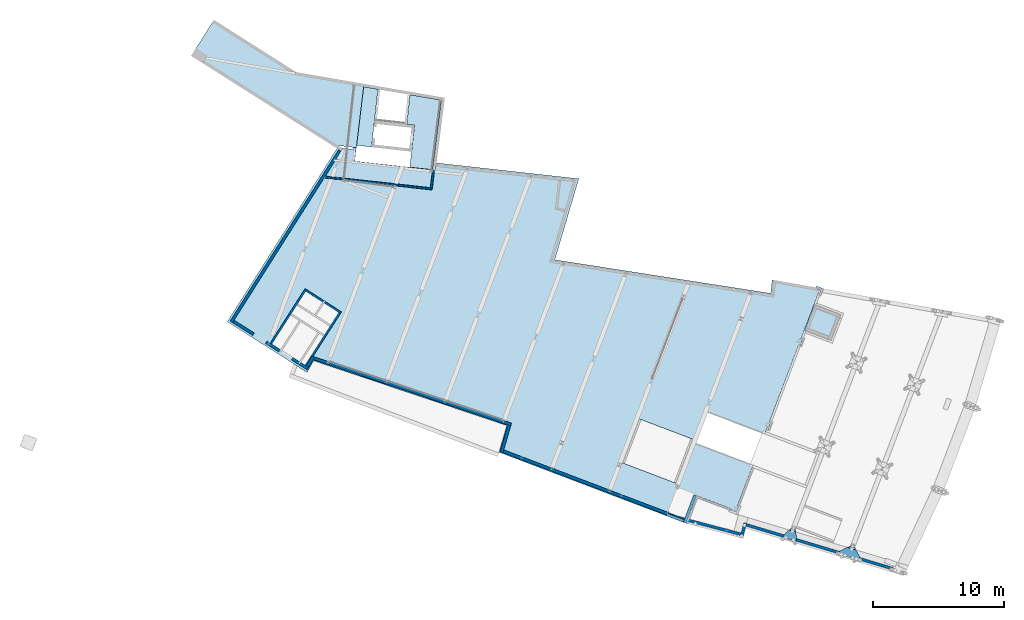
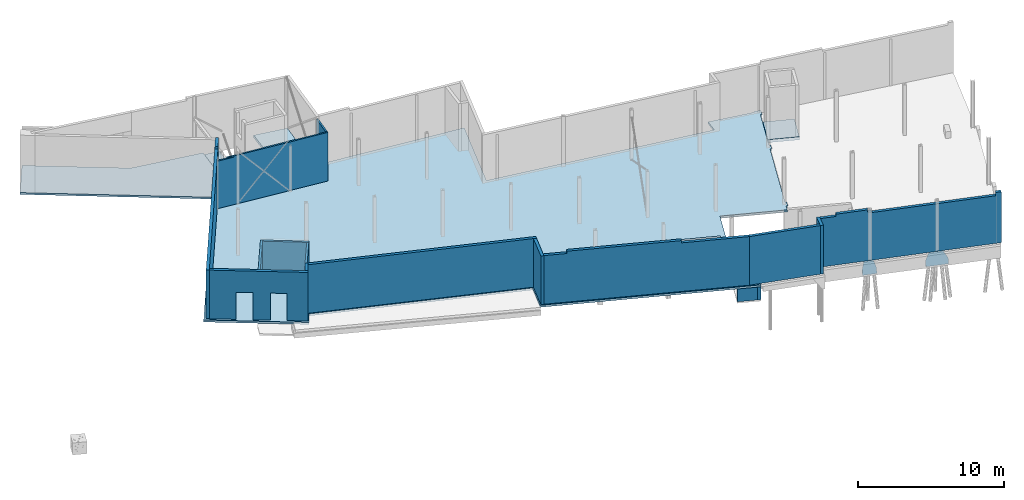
# One storey, part 42 of 46: 16 walls, 7 slabs, 3 openings.
"""IFC2X3 building model written with IfcOpenShell, lengths in millimetres."""

from ifc_helpers import new_model, entity, si_unit, converted_unit, derived_unit, direction, frame, frame_2d, origin, origin_2d_with_axis, place, context, subcontext, project, spatial, polyline, rectangle, outline, extrude, clip, bounded_halfspace, faceted_brep, material, layer, layer_set, layer_usage, type_object, element, save


model = new_model("IFC2X3")

# Units and contexts
model_context = context("Model", 3, precision=0.01, world=origin(), true_north=direction((6.123233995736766e-17, 1.0)))
body_context = subcontext(model_context, "Body", "Model", "MODEL_VIEW")
ifc_project = project(units=[si_unit("LENGTHUNIT", "METRE", prefix="MILLI"), converted_unit("PLANEANGLEUNIT", "DEGREE", entity("IfcPlaneAngleMeasure", 0.017453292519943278), si_unit("PLANEANGLEUNIT", "RADIAN"), dimensions=[0, 0, 0, 0, 0, 0, 0]), si_unit("AREAUNIT", "SQUARE_METRE"), derived_unit("THERMALTRANSMITTANCEUNIT", [(si_unit("MASSUNIT", "GRAM", prefix="KILO"), 1), (si_unit("THERMODYNAMICTEMPERATUREUNIT", "KELVIN"), -1), (si_unit("TIMEUNIT", "SECOND"), -3)])], contexts=[model_context])

# Site, building, storey
site_placement = place(None, frame((-72937.88054949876, 11621.45624098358, 0.0), z_axis=(0.0, 0.0, 1.0), x_axis=(0.9346418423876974, -0.35559053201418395, 0.0)))
site = spatial("IfcSite", under=ifc_project, at=site_placement, Name="Default", CompositionType="ELEMENT")
building_placement = place(site_placement, origin())
building = spatial("IfcBuilding", under=site, at=building_placement, CompositionType="ELEMENT")
storey_placement = place(building_placement, origin())
storey = spatial("IfcBuildingStorey", under=building, at=storey_placement, Name="00 begane grond", CompositionType="ELEMENT", Elevation=0.0)

# Slab, opening
ifc_material_1 = material(Name="beton_gewapend_ihw")
ifc_layer_1 = layer(ifc_material_1, 170.0)
ifc_layer_set_1 = layer_set([ifc_layer_1], Name="Floor:23.21_FL_Beton170mm")
ifc_layer_usage_1 = layer_usage(ifc_layer_set_1, "AXIS3", "POSITIVE", 0.0)
slab_type_1 = type_object("IfcSlabType", Name="23.21_vloer", PredefinedType="FLOOR", material=ifc_layer_set_1)
slab_1_placement = place(storey_placement, frame((11434.254827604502, 12622.982078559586, -230.0)))
slab_1 = element("IfcSlab", 1, at=slab_1_placement, inside=storey, type_object=slab_type_1, material=ifc_layer_usage_1, Name="beton 250mm", ObjectType="{$type(\"IfcObjectType[Type]\")}", PredefinedType="FLOOR", context=body_context, shape_type="SweptSolid", body=[
    extrude(outline(polyline([(22613.537964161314, -8930.045339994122), (19463.148371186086, 6529.991320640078), (18289.063698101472, 6822.527126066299), (18327.74675253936, 6977.780536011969), (18114.273313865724, 7030.969735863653), (17864.274662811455, 6027.606800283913), (12046.96180816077, 7536.1043550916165), (12179.434014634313, 8072.868648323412), (1356.278949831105, 10867.996685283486), (857.579482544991, 4421.563305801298), (-15491.795965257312, 7893.61412673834), (-15231.120350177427, 8902.008376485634), (-18567.207208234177, 9539.277695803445), (-18567.207208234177, 9662.89243700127), (-19017.20720823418, 9662.89243700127), (-19017.20720823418, 9212.892437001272), (-18902.207208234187, 9212.892437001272), (-18902.20720823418, 5491.623235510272), (-19017.20720823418, 5491.623235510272), (-19017.20720823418, 5041.623235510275), (-18902.20720823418, 5041.623235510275), (-18902.207208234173, -1388.3767644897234), (-19017.207208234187, -1388.3767644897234), (-19017.207208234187, -1838.376764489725), (-18902.20720823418, -1838.376764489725), (-18902.20720823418, -2333.376764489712), (-14237.207208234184, -2333.3767644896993), (-14237.207208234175, -4873.376764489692), (-18902.20720823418, -4873.376764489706), (-18902.207208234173, -8268.376764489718), (-19017.20720823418, -8268.376764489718), (-19017.20720823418, -8718.37676448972), (-18567.207208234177, -8718.376764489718), (-18567.207208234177, -8603.37676448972), (-15692.207208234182, -8603.376764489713), (-15692.207208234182, -10870.394685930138), (-377.7228109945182, -10870.394685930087), (-210.7202484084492, -8750.191004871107), (15371.114483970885, -9366.987101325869), (15532.42841604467, -10373.007883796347), (22613.537964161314, -8930.045339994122)])), frame((22613.537964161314, 10870.394685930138, 170.0), z_axis=(0.0, 0.0, -1.0), x_axis=(-1.0, 0.0, 0.0)), (0.0, 0.0, 1.0), 170.0),
])
opening_1_placement = place(slab_1_placement, origin())
element("IfcOpeningElement", 2, at=opening_1_placement, cuts=slab_1, Name="beton 250mm", ObjectType="Opening", context=body_context, shape_type="SweptSolid", body=[
    extrude(rectangle(XDim=3600.0, YDim=4380.000000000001, at=frame_2d((1.1368683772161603e-12, -4.320099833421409e-12), x_axis=(1.0, 0.0))), frame((34310.745172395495, 4402.017921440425, 170.0), z_axis=(0.0, 0.0, -1.0), x_axis=(0.0, -1.0, 0.0)), (0.0, 0.0, 1.0), 170.0),
])

# Slabs
slab_type_2 = type_object("IfcSlabType", Name="13.22_SFO_Beton1170mm", PredefinedType="BASESLAB")
slab_2_placement = place(storey_placement, origin())
element("IfcSlab", 3, at=slab_2_placement, inside=storey, type_object=slab_type_2, material=ifc_material_1, Name="Foundation Slab:13.22_SFO_Beton1170mm", ObjectType="Foundation Slab:13.22_SFO_Beton1170mm", PredefinedType="BASESLAB", context=body_context, shape_type="Brep", body=[
    faceted_brep([(61500.0, 14827.73021632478, -1230.0), (62125.0, 15485.151536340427, -1230.0), (62475.0, 15485.151536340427, -1230.0), (63100.0, 14942.81415988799, -1230.0), (63100.0, 14708.248249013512, -1230.0), (61500.0, 14592.111968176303, -1230.0), (61500.0, 14827.73021632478, -879.74522292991), (61946.33105192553, 15297.21429523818, -230.0), (62125.0, 15485.151536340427, -230.0), (62475.0, 15485.151536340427, -230.0), (62634.05534388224, 15347.132883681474, -230.0), (63100.0, 14942.81415988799, -881.3095591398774)], [[[0, 1, 2, 3, 4, 5]], [[0, 5, 6]], [[1, 0, 6, 7, 8]], [[2, 1, 8, 9]], [[3, 2, 9, 10, 11]], [[4, 3, 11]], [[5, 4, 11, 10, 7, 6]], [[8, 7, 10, 9]]]),
])
slab_3_placement = place(storey_placement, origin())
element("IfcSlab", 4, at=slab_3_placement, inside=storey, type_object=slab_type_2, material=ifc_material_1, Name="Foundation Slab:13.22_SFO_Beton1170mm", ObjectType="Foundation Slab:13.22_SFO_Beton1170mm", PredefinedType="BASESLAB", context=body_context, shape_type="Brep", body=[
    faceted_brep([(57070.0, 14506.177888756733, -1230.0), (57395.0, 15141.823656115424, -1230.0), (57745.0, 15141.823656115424, -1230.0), (58070.0, 14578.763064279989, -1230.0), (58070.0, 14343.144816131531, -1230.0), (57070.0, 14270.559640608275, -1230.0), (57070.0, 14506.177888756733, -879.7452229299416), (57302.092147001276, 14960.111399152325, -230.0), (57395.0, 15141.823656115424, -230.0), (57745.0, 15141.823656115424, -230.0), (57827.85714226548, 14998.274143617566, -230.0), (58070.0, 14578.763064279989, -879.7452229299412)], [[[0, 1, 2, 3, 4, 5]], [[0, 5, 6]], [[1, 0, 6, 7, 8]], [[2, 1, 8, 9]], [[3, 2, 9, 10, 11]], [[4, 3, 11]], [[5, 4, 11, 10, 7, 6]], [[8, 7, 10, 9]]]),
])
ifc_material_2 = material(Name="beton_gewapend_ihw_c30/37")
ifc_layer_2 = layer(ifc_material_2, 250.00000000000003)
ifc_layer_set_2 = layer_set([ifc_layer_2], Name="Foundation Slab:13.22_SFO_Beton250mm-C30/37")
ifc_layer_usage_2 = layer_usage(ifc_layer_set_2, "AXIS3", "POSITIVE", 0.0)
slab_type_3 = type_object("IfcSlabType", Name="13.22_SFO_Beton250mm-C30/37", PredefinedType="BASESLAB", material=ifc_layer_set_2)
slab_4_placement = place(storey_placement, origin())
element("IfcSlab", 5, at=slab_4_placement, inside=storey, type_object=slab_type_3, material=ifc_layer_usage_2, Name="Foundation Slab:13.22_SFO_Beton250mm-C30/37", ObjectType="Foundation Slab:13.22_SFO_Beton250mm-C30/37", PredefinedType="BASESLAB", context=body_context, shape_type="SweptSolid", body=[
    extrude(rectangle(XDim=2149.9999999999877, YDim=2189.9999999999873, at=origin_2d_with_axis()), frame((54065.0, 30715.0, -60.0), z_axis=(0.0, 0.0, -1.0), x_axis=(0.0, 1.0, 0.0)), (0.0, 0.0, 1.0), 250.00000000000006),
])
ifc_layer_3 = layer(ifc_material_1, 150.0)
ifc_layer_set_3 = layer_set([ifc_layer_3], Name="Floor:23.21_FL_Beton150mm")
ifc_layer_usage_3 = layer_usage(ifc_layer_set_3, "AXIS3", "POSITIVE", 0.0)
slab_type_4 = type_object("IfcSlabType", Name="23.21_vloer", PredefinedType="FLOOR", material=ifc_layer_set_3)
slab_5_placement = place(storey_placement, origin())
element("IfcSlab", 6, at=slab_5_placement, inside=storey, type_object=slab_type_4, material=ifc_layer_usage_3, Name="beton 250mm", ObjectType="{$type(\"IfcObjectType[Type]\")}", PredefinedType="FLOOR", context=body_context, shape_type="SweptSolid", body=[
    extrude(outline(polyline([(-1524.7674812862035, -4779.3303275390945), (3398.630257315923, -4779.3303275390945), (3398.630257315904, -3425.696420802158), (3621.181408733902, -3319.5029878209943), (-2085.312028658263, 8609.608198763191), (-5012.542797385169, 7209.317522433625), (-1795.8196160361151, 484.93434250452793), (-1524.7674812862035, -4779.3303275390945)])), frame((10474.289916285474, 32666.658008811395, -800.0), z_axis=(0.0, 0.0, -1.0), x_axis=(0.24176909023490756, -0.9703338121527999, 0.0)), (0.0, 0.0, 1.0), 150.0),
])
ifc_material_3 = material(Name="beton_gewapend_ihw_c20/25")
ifc_layer_4 = layer(ifc_material_3, 50.0)
ifc_material_4 = material(Name="hout_vuren_generiek_c24")
ifc_layer_5 = layer(ifc_material_4, 171.0)
ifc_layer_set_4 = layer_set([ifc_layer_4, ifc_layer_5], Name="Floor:23.21_FL_Lewisvloer50-171")
ifc_layer_usage_4 = layer_usage(ifc_layer_set_4, "AXIS3", "POSITIVE", 0.0)
slab_type_5 = type_object("IfcSlabType", Name="23.21_FL_Lewisvloer50-171", PredefinedType="FLOOR", material=ifc_layer_set_4)
slab_6_placement = place(storey_placement, origin())
element("IfcSlab", 7, at=slab_6_placement, inside=storey, type_object=slab_type_5, material=ifc_layer_usage_4, Name="beton 250mm", ObjectType="{$type(\"IfcObjectType[Type]\")}", PredefinedType="FLOOR", context=body_context, shape_type="SweptSolid", body=[
    extrude(outline(polyline([(-2499.7980922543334, -1407.6063400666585), (2868.8885329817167, -1407.6063400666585), (2898.4904922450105, 356.0008516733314), (-334.22708451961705, 405.38248636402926), (-325.0255385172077, 1007.7521665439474), (-2608.328309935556, 1046.0771755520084), (-2499.7980922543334, -1407.6063400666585)])), frame((19956.426084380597, 33487.14231192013, -60.0), z_axis=(0.0, 0.0, -1.0), x_axis=(0.2347367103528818, -0.9720589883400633, 0.0)), (0.0, 0.0, 1.0), 221.0),
])
ifc_layer_usage_5 = layer_usage(ifc_layer_set_4, "AXIS3", "POSITIVE", 0.0)
slab_7_placement = place(storey_placement, origin())
element("IfcSlab", 8, at=slab_7_placement, inside=storey, type_object=slab_type_5, material=ifc_layer_usage_5, Name="beton 250mm", ObjectType="{$type(\"IfcObjectType[Type]\")}", PredefinedType="FLOOR", context=body_context, shape_type="SweptSolid", body=[
    extrude(outline(polyline([(-2207.5722452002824, -566.1671969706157), (2241.4854353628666, -566.1671969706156), (2241.4854353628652, 587.7188486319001), (-2275.3986255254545, 544.6155453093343), (-2207.5722452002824, -566.1671969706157)])), frame((15894.796478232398, 33022.09118712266, -800.0), z_axis=(0.0, 0.0, -1.0), x_axis=(0.2510172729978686, -0.9679826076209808, 0.0)), (0.0, 0.0, 1.0), 220.99999999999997),
])

# Walls
ifc_layer_6 = layer(ifc_material_1, 220.0)
ifc_layer_set_5 = layer_set([ifc_layer_6], Name="Basic Wall:22.21_WA_Beton 220mm")
ifc_layer_usage_6 = layer_usage(ifc_layer_set_5, "AXIS2", "NEGATIVE", 110.0)
wall_type_1 = type_object("IfcWallType", Name="22.21_muur", PredefinedType="STANDARD", material=ifc_layer_set_5)
wall_1_placement = place(storey_placement, frame((49630.0, 14890.0, -1300.0), z_axis=(0.0, 0.0, 1.0), x_axis=(0.0, -1.0, 0.0)))
element("IfcWallStandardCase", 9, at=wall_1_placement, inside=storey, type_object=wall_type_1, material=ifc_layer_usage_6, Name="Basic Wall:22.21_WA_Beton 220mm", ObjectType="Basic Wall:22.21_WA_Beton 220mm", context=body_context, shape_type="Clipping", body=[
    clip(extrude(rectangle(XDim=2267.0179214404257, YDim=220.00000000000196, at=frame_2d((1133.5089607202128, 0.0), x_axis=(-1.0, 0.0))), origin(), (0.0, 0.0, 1.0), 1070.0000000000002), bounded_halfspace(frame((0.0, -110.0, 1070.0), z_axis=(0.0, 0.0, -1.0), x_axis=(-0.9798626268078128, 0.19967281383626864, 0.0)), True, frame((0.0, -110.0, 1070.0), z_axis=(0.0, 0.0, -1.0), x_axis=(-0.9798626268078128, 0.19967281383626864, 0.0)), polyline([(0.0, 0.0), (43.92801904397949, 215.56977789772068), (-2177.4381164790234, 668.2316252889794), (-2221.366135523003, 452.6618473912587), (-2005.796357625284, 408.73382834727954), (0.0, 0.0)]))),
])
ifc_layer_usage_7 = layer_usage(ifc_layer_set_5, "AXIS2", "NEGATIVE", 110.0)
wall_2_placement = place(storey_placement, frame((49520.0, 12732.982078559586, -1300.0), z_axis=(0.0, 0.0, 1.0), x_axis=(-1.0, 0.0, 0.0)))
element("IfcWallStandardCase", 10, at=wall_2_placement, inside=storey, type_object=wall_type_1, material=ifc_layer_usage_7, Name="Basic Wall:22.21_WA_Beton 220mm", ObjectType="Basic Wall:22.21_WA_Beton 220mm", context=body_context, shape_type="Clipping", body=[
    clip(extrude(rectangle(XDim=1409.9999999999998, YDim=219.9999999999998, at=frame_2d((704.9999999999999, 1.1723955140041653e-12), x_axis=(-1.0, 0.0))), origin(), (0.0, 0.0, 1.0), 1070.0000000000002), bounded_halfspace(frame((0.0, -110.0, 1070.0), z_axis=(0.0, 0.0, -1.0), x_axis=(-0.1996728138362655, -0.9798626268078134, 0.0)), True, frame((0.0, -110.0, 1070.0), z_axis=(0.0, 0.0, -1.0), x_axis=(-0.1996728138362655, -0.9798626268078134, 0.0)), polyline([(0.0, 0.0), (-215.56977789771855, 43.928019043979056), (-497.1084454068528, -1337.6782847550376), (-281.53866750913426, -1381.6063037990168), (0.0, 0.0)]))),
])
ifc_material_5 = material(Name="steenachtig_baksteen_steen")
ifc_layer_7 = layer(ifc_material_5, 220.0)
ifc_layer_set_6 = layer_set([ifc_layer_7], Name="Basic Wall:22.21_WA_Metselwerk 220mm")
ifc_layer_usage_8 = layer_usage(ifc_layer_set_6, "AXIS2", "NEGATIVE", 110.0)
wall_type_2 = type_object("IfcWallType", Name="22.21_muur", PredefinedType="STANDARD", material=ifc_layer_set_6)
wall_3_placement = place(storey_placement, frame((11730.765387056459, 14666.197785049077, -60.0), z_axis=(0.0, 0.0, 1.0), x_axis=(0.1996728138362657, 0.9798626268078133, 0.0)))
element("IfcWallStandardCase", 11, at=wall_3_placement, inside=storey, type_object=wall_type_2, material=ifc_layer_usage_8, Name="Basic Wall:22.21_WA_Metselwerk 220mm", ObjectType="Basic Wall:22.21_WA_Metselwerk 220mm", context=body_context, shape_type="Clipping", body=[
    clip(extrude(outline(polyline([(15548.079857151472, -110.0), (15548.295308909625, 110.0), (0.0, 110.0), (0.0, -110.0), (220.0, -110.0), (15548.079857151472, -110.0)])), origin(), (0.0, 0.0, 1.0), 4250.0), bounded_halfspace(frame((0.0, -110.0, 4060.0), z_axis=(0.0, 0.0, -1.0), x_axis=(0.9798626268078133, 0.1996728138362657, 0.0)), True, frame((0.0, -110.0, 4060.0)), polyline([(0.0, 0.0), (220.0, 0.0), (14483.424345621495, 0.0), (14438.593552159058, 220.0), (0.0, 220.0), (0.0, 0.0)]))),
])

# Wall, openings
ifc_layer_usage_9 = layer_usage(ifc_layer_set_6, "AXIS2", "NEGATIVE", 110.0)
wall_4_placement = place(storey_placement, frame((18484.224642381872, 13402.26325100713, -60.0), z_axis=(0.0, 0.0, 1.0), x_axis=(-0.9798626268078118, 0.19967281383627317, 0.0)))
wall_4 = element("IfcWallStandardCase", 12, at=wall_4_placement, inside=storey, type_object=wall_type_2, material=ifc_layer_usage_9, Name="Basic Wall:22.21_WA_Metselwerk 220mm", ObjectType="Basic Wall:22.21_WA_Metselwerk 220mm", context=body_context, shape_type="Clipping", body=[
    clip(extrude(outline(polyline([(9.251816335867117, -110.0), (229.4462670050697, -110.0), (6759.835690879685, -110.0), (6759.835690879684, 110.0), (0.0, 110.0), (9.251816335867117, -110.0)])), origin(), (0.0, 0.0, 1.0), 4059.9999999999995), bounded_halfspace(frame((9.251816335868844, -110.0, 4060.0), z_axis=(0.0, 0.0, -1.0), x_axis=(0.19967281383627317, -0.9798626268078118, 0.0)), True, frame((9.251816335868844, -110.0, 4060.0)), polyline([(0.0, 0.0), (220.19445066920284, 0.0), (6750.58387454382, 0.0), (6750.583874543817, 220.0), (-9.25181633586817, 220.0), (0.0, 0.0)]))),
])
opening_2_placement = place(wall_4_placement, frame((15435.93329748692, 16823.17402022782, 0.0)))
element("IfcOpeningElement", 13, at=opening_2_placement, cuts=wall_4, Name="31.10_Constructiesparing", ObjectType="Opening", context=body_context, shape_type="SweptSolid", body=[
    extrude(rectangle(XDim=2259.9999999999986, YDim=1150.0000000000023, at=frame_2d((0.0, -1.0800249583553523e-12), x_axis=(1.0, 0.0))), frame((-11079.765775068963, -16933.174020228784, 1130.0), z_axis=(0.0, 1.0, 0.0), x_axis=(0.0, 0.0, -1.0)), (0.0, 0.0, 1.0), 220.00000000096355),
])
opening_3_placement = place(wall_4_placement, frame((15435.93329748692, 16823.17402022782, 0.0)))
element("IfcOpeningElement", 14, at=opening_3_placement, cuts=wall_4, Name="31.10_Constructiesparing", ObjectType="Opening", context=body_context, shape_type="SweptSolid", body=[
    extrude(rectangle(XDim=2259.9999999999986, YDim=1150.0000000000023, at=frame_2d((0.0, 1.0800249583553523e-12), x_axis=(1.0, 0.0))), frame((-13431.817221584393, -16933.17402022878, 1130.0), z_axis=(0.0, 1.0, 0.0), x_axis=(0.0, 0.0, -1.0)), (0.0, 0.0, 1.0), 220.00000000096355),
])

# Walls
ifc_layer_usage_10 = layer_usage(ifc_layer_set_6, "AXIS2", "NEGATIVE", 110.0)
wall_5_placement = place(storey_placement, frame((18388.51058481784, 13529.311337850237, -60.0), z_axis=(0.0, 0.0, 1.0), x_axis=(0.15832601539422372, 0.9873868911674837, 0.0)))
element("IfcWallStandardCase", 15, at=wall_5_placement, inside=storey, type_object=wall_type_2, material=ifc_layer_usage_10, Name="Basic Wall:22.21_WA_Metselwerk 220mm", ObjectType="Basic Wall:22.21_WA_Metselwerk 220mm", context=body_context, shape_type="Clipping", body=[
    clip(extrude(outline(polyline([(925.0875277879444, -110.0), (880.8213387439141, 110.0), (9.251816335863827, 110.0), (0.0, -110.0), (700.6783134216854, -110.0), (925.0875277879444, -110.0)])), origin(), (0.0, 0.0, 1.0), 4059.9999999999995), bounded_halfspace(frame((0.0, -110.0, 4060.0), z_axis=(0.0, 0.0, -1.0), x_axis=(0.9873868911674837, 0.15832601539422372, 0.0)), True, frame((0.0, -110.0, 4060.0)), polyline([(0.0, 0.0), (700.6783134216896, 0.0), (925.087527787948, 0.0), (880.8213387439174, 220.0), (9.251816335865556, 220.0), (0.0, 0.0)]))),
])
ifc_layer_usage_11 = layer_usage(ifc_layer_set_6, "AXIS2", "NEGATIVE", 110.0)
wall_6_placement = place(storey_placement, frame((18603.70788213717, 14313.649978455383, -60.0), z_axis=(0.0, 0.0, 1.0), x_axis=(0.9992174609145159, 0.03955332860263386, 0.0)))
element("IfcWallStandardCase", 16, at=wall_6_placement, inside=storey, type_object=wall_type_2, material=ifc_layer_usage_11, Name="Basic Wall:22.21_WA_Metselwerk 220mm", ObjectType="Basic Wall:22.21_WA_Metselwerk 220mm", context=body_context, shape_type="Clipping", body=[
    clip(extrude(outline(polyline([(15956.648119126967, -110.0), (15948.054670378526, 110.0), (44.26618904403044, 110.0), (0.0, -110.0), (15736.48034818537, -110.0), (15956.648119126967, -110.0)])), origin(), (0.0, 0.0, 1.0), 4059.9999999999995), bounded_halfspace(frame((0.0, -110.0, 4060.0), z_axis=(0.0, 0.0, -1.0), x_axis=(0.03955332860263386, 0.9992174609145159, 0.0)), True, frame((0.0, -110.0, 4060.0)), polyline([(0.0, 0.0), (15736.480348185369, 0.0), (15956.648119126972, 0.0), (15948.054670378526, 220.0), (44.2661890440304, 220.0), (0.0, 0.0)]))),
])
ifc_layer_usage_12 = layer_usage(ifc_layer_set_6, "AXIS2", "NEGATIVE", 110.0)
wall_7_placement = place(storey_placement, frame((34610.483082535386, 12694.344437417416, -60.0), z_axis=(0.0, 0.0, 1.0), x_axis=(-0.07852401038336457, 0.9969122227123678, 0.0)))
element("IfcWallStandardCase", 17, at=wall_7_placement, inside=storey, type_object=wall_type_2, material=ifc_layer_usage_12, Name="Basic Wall:22.21_WA_Metselwerk 220mm", ObjectType="Basic Wall:22.21_WA_Metselwerk 220mm", context=body_context, shape_type="Clipping", body=[
    clip(extrude(outline(polyline([(2138.495724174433, -110.0), (2147.0891729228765, 110.0), (17.328789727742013, 110.0), (0.0, -110.0), (220.6814150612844, -110.0), (2138.495724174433, -110.0)])), origin(), (0.0, 0.0, 1.0), 4059.9999999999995), bounded_halfspace(frame((0.0, -110.0, 4060.0), z_axis=(0.0, 0.0, -1.0), x_axis=(0.9969122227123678, -0.07852401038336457, 0.0)), True, frame((0.0, -110.0, 4060.0)), polyline([(0.0, 0.0), (220.6814150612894, 0.0), (2138.4957241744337, 0.0), (2147.0891729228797, 220.0), (17.328789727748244, 220.0), (0.0, 0.0)]))),
])
ifc_layer_usage_13 = layer_usage(ifc_layer_set_6, "AXIS2", "NEGATIVE", 110.0)
wall_8_placement = place(storey_placement, frame((34702.81463730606, 12812.982078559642, -60.0)))
element("IfcWallStandardCase", 18, at=wall_8_placement, inside=storey, type_object=wall_type_2, material=ifc_layer_usage_13, Name="Basic Wall:22.21_WA_Metselwerk 220mm", ObjectType="Basic Wall:22.21_WA_Metselwerk 220mm", context=body_context, shape_type="Clipping", body=[
    clip(clip(extrude(outline(polyline([(14265.089800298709, -110.0), (14253.598966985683, 110.0), (0.0, 110.0), (17.328789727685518, -110.0), (14265.089800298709, -110.0)])), origin(), (0.0, 0.0, 1.0), 4250.0), bounded_halfspace(frame((17.328789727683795, -110.0, 4060.0), z_axis=(0.0, 0.0, -1.0), x_axis=(0.0, 1.0, 0.0)), True, frame((17.328789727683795, -110.0, 4060.0)), polyline([(0.0, 0.0), (1589.8565729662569, 0.0), (1589.856572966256, 220.0), (-17.32878972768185, 220.0), (0.0, 0.0)]))), bounded_halfspace(frame((9567.185362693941, -110.0, 4060.0), z_axis=(0.0, 0.0, -1.0), x_axis=(0.0, 1.0, 0.0)), True, frame((9567.185362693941, -110.0, 4060.0)), polyline([(0.0, 0.0), (4697.904437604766, 0.0), (4686.413604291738, 220.0), (0.0, 220.0), (0.0, 0.0)]))),
])
ifc_layer_usage_14 = layer_usage(ifc_layer_set_6, "AXIS2", "NEGATIVE", 110.0)
wall_9_placement = place(storey_placement, frame((48956.444866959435, 12812.383533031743, -60.0), z_axis=(0.0, 0.0, 1.0), x_axis=(0.9945586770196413, 0.10417791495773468, 0.0)))
element("IfcWallStandardCase", 19, at=wall_9_placement, inside=storey, type_object=wall_type_2, material=ifc_layer_usage_14, Name="Basic Wall:22.21_WA_Metselwerk 220mm", ObjectType="Basic Wall:22.21_WA_Metselwerk 220mm", context=body_context, shape_type="Clipping", body=[
    clip(extrude(outline(polyline([(5023.716797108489, -110.0), (5025.130028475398, 110.0), (11.490833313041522, 110.0), (0.0, -110.0), (5023.716797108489, -110.0)])), origin(), (0.0, 0.0, 1.0), 4060.0), bounded_halfspace(frame((0.0, -110.0, 4060.0), z_axis=(0.0, 0.0, -1.0), x_axis=(0.10417791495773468, 0.9945586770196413, 0.0)), True, frame((0.0, -110.0, 4060.0)), polyline([(0.0, 0.0), (5023.716797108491, 0.0), (5025.130028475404, 220.0), (11.490833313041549, 220.0), (0.0, 0.0)]))),
])
ifc_layer_usage_15 = layer_usage(ifc_layer_set_6, "AXIS2", "NEGATIVE", 110.0)
wall_10_placement = place(storey_placement, frame((54073.75837860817, 13237.09899777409, -60.0), z_axis=(0.0, 0.0, 1.0), x_axis=(-0.09778707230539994, 0.9952073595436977, 0.0)))
element("IfcWallStandardCase", 20, at=wall_10_placement, inside=storey, type_object=wall_type_2, material=ifc_layer_usage_15, Name="Basic Wall:22.21_WA_Metselwerk 220mm", ObjectType="Basic Wall:22.21_WA_Metselwerk 220mm", context=body_context, shape_type="Clipping", body=[
    clip(extrude(outline(polyline([(1026.3670412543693, -110.0), (1031.9750630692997, 110.0), (220.00453909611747, 110.0), (0.0, 110.0), (1.4132313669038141, -110.0), (806.2955757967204, -110.0), (1026.3670412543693, -110.0)])), origin(), (0.0, 0.0, 1.0), 4059.9999999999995), bounded_halfspace(frame((1.4132313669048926, -110.0, 4060.0), z_axis=(0.0, 0.0, -1.0), x_axis=(0.9952073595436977, -0.09778707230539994, 0.0)), True, frame((1.4132313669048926, -110.0, 4060.0)), polyline([(0.0, 0.0), (804.8823444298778, 0.0), (1024.9538098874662, 0.0), (1030.5618317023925, 220.0), (218.59130772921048, 220.0), (-1.4132313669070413, 220.0), (0.0, 0.0)]))),
])
ifc_layer_usage_16 = layer_usage(ifc_layer_set_6, "AXIS2", "NEGATIVE", 110.0)
wall_11_placement = place(storey_placement, frame((54090.82917888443, 14159.592242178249, -60.0), z_axis=(0.0, 0.0, 1.0), x_axis=(0.9973760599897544, 0.07239471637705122, 0.0)))
element("IfcWallStandardCase", 21, at=wall_11_placement, inside=storey, type_object=wall_type_2, material=ifc_layer_usage_16, Name="Basic Wall:22.21_WA_Metselwerk 220mm", ObjectType="Basic Wall:22.21_WA_Metselwerk 220mm", context=body_context, shape_type="Clipping", body=[
    clip(clip(clip(extrude(outline(polyline([(12719.190760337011, -110.0), (12719.190760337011, 110.0), (0.0, 110.0), (5.608021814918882, -110.0), (12719.190760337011, -110.0)])), origin(), (0.0, 0.0, 1.0), 4250.0), bounded_halfspace(frame((5.608021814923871, -110.0, 4060.0), z_axis=(0.0, 0.0, -1.0), x_axis=(0.07239471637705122, 0.9973760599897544, 0.0)), True, frame((5.608021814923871, -110.0, 4060.0)), polyline([(0.0, 0.0), (1098.4966404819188, 0.0), (1114.4653790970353, 220.0), (-5.608021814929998, 220.0), (0.0, 0.0)]))), bounded_halfspace(frame((3630.7342311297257, -110.0, 3980.0), z_axis=(0.0, 0.0, -1.0), x_axis=(0.9973760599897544, -0.07239471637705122, 0.0)), True, frame((3630.7342311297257, -110.0, 3980.0)), polyline([(0.0, 0.0), (8698.227191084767, 0.0), (8730.67867728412, 220.0), (15.968738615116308, 220.0), (0.0, 0.0)]))), bounded_halfspace(frame((3329.944978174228, -110.0, 4060.0), z_axis=(0.0, 0.0, -1.0), x_axis=(0.07239471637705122, 0.9973760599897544, 0.0)), True, frame((3329.944978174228, -110.0, 4060.0)), polyline([(0.0, 0.0), (300.7892529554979, 0.0), (316.7579915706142, 220.0), (15.968738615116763, 220.0), (0.0, 0.0)]))),
])
ifc_material_6 = material(Name="hout_multiplex_plaat")
ifc_layer_8 = layer(ifc_material_6, 15.0)
ifc_material_7 = material(Name="isolatie_steenwol_deken")
ifc_layer_9 = layer(ifc_material_7, 100.0)
ifc_layer_10 = layer(ifc_material_6, 15.0)
ifc_layer_set_7 = layer_set([ifc_layer_8, ifc_layer_9, ifc_layer_10], Name="Basic Wall:21.23_WA_HSB-Wand130mm")
ifc_layer_usage_17 = layer_usage(ifc_layer_set_7, "AXIS2", "NEGATIVE", 65.0)
wall_type_3 = type_object("IfcWallType", Name="NLRS_21_WA_LIB_Wand_gen_EPA:HSB-wand 130mm", PredefinedType="STANDARD", material=ifc_layer_set_7)
wall_12_placement = place(storey_placement, frame((14441.101730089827, 27558.829420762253, -60.0), z_axis=(0.0, 0.0, 1.0), x_axis=(0.967982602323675, 0.25101729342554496, 0.0)))
element("IfcWallStandardCase", 22, at=wall_12_placement, inside=storey, type_object=wall_type_3, material=ifc_layer_usage_17, Name="Basic Wall:21.23_WA_HSB-Wand130mm", ObjectType="Basic Wall:21.23_WA_HSB-Wand130mm", context=body_context, shape_type="Clipping", body=[
    clip(clip(extrude(outline(polyline([(8293.269266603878, -65.0), (8295.451307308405, 65.0), (8165.43299589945, 65.0), (63.56131853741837, 65.0), (0.0, -65.0), (8293.269266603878, -65.0)])), origin(), (0.0, 0.0, 1.0), 4059.9999999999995), bounded_halfspace(frame((1251.2661741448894, -65.0, 4060.0), z_axis=(0.0, 0.0, -1.0), x_axis=(-0.967982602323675, 0.25101729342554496, 0.0)), True, frame((1251.2661741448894, -65.0, 4060.0)), polyline([(0.0, 0.0), (7042.003092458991, 0.0), (7044.18513316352, 130.0), (6914.166821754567, 130.0), (6911.393916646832, 130.0), (413.43509002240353, 130.0), (-501.3110315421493, 130.0), (0.0, 0.0)]))), bounded_halfspace(frame((0.0, -65.0, 3970.0), z_axis=(0.0, 0.0, 1.0), x_axis=(0.0, 1.0, 0.0)), False, frame((0.0, -65.0, 3970.0)), polyline([(0.0, 0.0), (1251.2661741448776, 0.0), (749.955142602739, 130.0), (63.56131853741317, 130.0), (0.0, 0.0)]))),
])
ifc_layer_usage_18 = layer_usage(ifc_layer_set_7, "AXIS2", "NEGATIVE", 65.0)
wall_13_placement = place(storey_placement, frame((22391.966520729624, 29686.67106636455, -60.0), z_axis=(0.0, 0.0, 1.0), x_axis=(-0.23473671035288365, 0.9720589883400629, 0.0)))
element("IfcWallStandardCase", 23, at=wall_13_placement, inside=storey, type_object=wall_type_3, material=ifc_layer_usage_18, Name="Basic Wall:21.23_WA_HSB-Wand130mm", ObjectType="Basic Wall:21.23_WA_HSB-Wand130mm", context=body_context, shape_type="SweptSolid", body=[
    extrude(outline(polyline([(1649.6718699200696, -65.0), (1649.6718699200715, 65.0), (0.0, 65.0), (2.182040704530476, -65.0), (1649.6718699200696, -65.0)])), origin(), (0.0, 0.0, 1.0), 4059.9999999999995),
])
ifc_material_8 = material(Name="steenachtig_kalkzandsteen_generiek")
ifc_layer_11 = layer(ifc_material_8, 150.0)
ifc_layer_set_8 = layer_set([ifc_layer_11], Name="Basic Wall:22.21_WA_Kalkzandsteen150mm")
ifc_layer_usage_19 = layer_usage(ifc_layer_set_8, "AXIS2", "NEGATIVE", 75.0)
wall_type_4 = type_object("IfcWallType", Name="NLRS_22_WA_LIB_Muur_gen_EPA:Kalkzandsteen 200mm", PredefinedType="STANDARD", material=ifc_layer_set_8)
wall_14_placement = place(storey_placement, frame((15156.76125034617, 14192.20943736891, -60.0), z_axis=(0.0, 0.0, 1.0), x_axis=(0.204442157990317, 0.9788786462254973, 0.0)))
element("IfcWallStandardCase", 24, at=wall_14_placement, inside=storey, type_object=wall_type_4, material=ifc_layer_usage_19, Name="Basic Wall:22.21_WA_Kalkzandsteen150mm", ObjectType="Basic Wall:22.21_WA_Kalkzandsteen150mm", context=body_context, shape_type="SweptSolid", body=[
    extrude(outline(polyline([(4954.9533071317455, -75.0), (4954.953307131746, 75.0), (0.0, 75.0), (0.7304751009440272, -75.0), (4804.953307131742, -75.0), (4954.9533071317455, -75.0)])), origin(), (0.0, 0.0, 1.0), 3060.0),
])
ifc_layer_usage_20 = layer_usage(ifc_layer_set_8, "AXIS2", "NEGATIVE", 75.0)
wall_15_placement = place(storey_placement, frame((16227.84533381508, 18953.758362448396, -60.0), z_axis=(0.0, 0.0, 1.0), x_axis=(0.978878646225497, -0.2044421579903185, 0.0)))
element("IfcWallStandardCase", 25, at=wall_15_placement, inside=storey, type_object=wall_type_4, material=ifc_layer_usage_20, Name="Basic Wall:22.21_WA_Kalkzandsteen150mm", ObjectType="Basic Wall:22.21_WA_Kalkzandsteen150mm", context=body_context, shape_type="SweptSolid", body=[
    extrude(rectangle(XDim=3170.000000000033, YDim=150.00000000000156, at=frame_2d((1585.0000000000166, -1.5631940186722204e-13), x_axis=(-1.0, 0.0))), origin(), (0.0, 0.0, 1.0), 3060.0),
])
ifc_layer_usage_21 = layer_usage(ifc_layer_set_8, "AXIS2", "NEGATIVE", 75.0)
wall_16_placement = place(storey_placement, frame((19242.141582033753, 18247.593985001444, -60.0), z_axis=(0.0, 0.0, 1.0), x_axis=(-0.20444215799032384, -0.9788786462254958, 0.0)))
element("IfcWallStandardCase", 26, at=wall_16_placement, inside=storey, type_object=wall_type_4, material=ifc_layer_usage_21, Name="Basic Wall:22.21_WA_Kalkzandsteen150mm", ObjectType="Basic Wall:22.21_WA_Kalkzandsteen150mm", context=body_context, shape_type="SweptSolid", body=[
    extrude(outline(polyline([(4789.515933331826, -75.0), (4788.785458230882, 75.0), (0.0, 75.0), (0.0, -75.0), (4789.515933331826, -75.0)])), origin(), (0.0, 0.0, 1.0), 3060.0),
])

save(model, "model.ifc")
